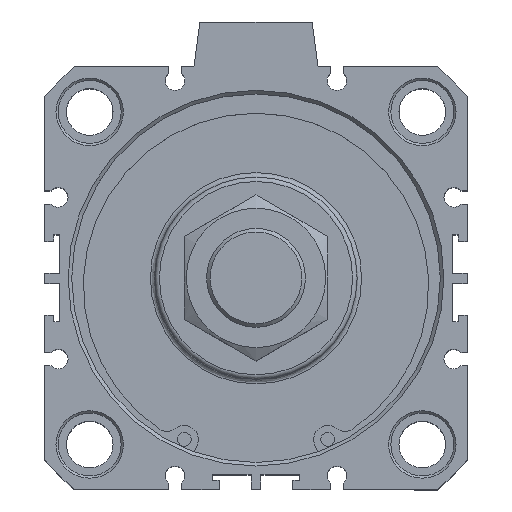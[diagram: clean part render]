
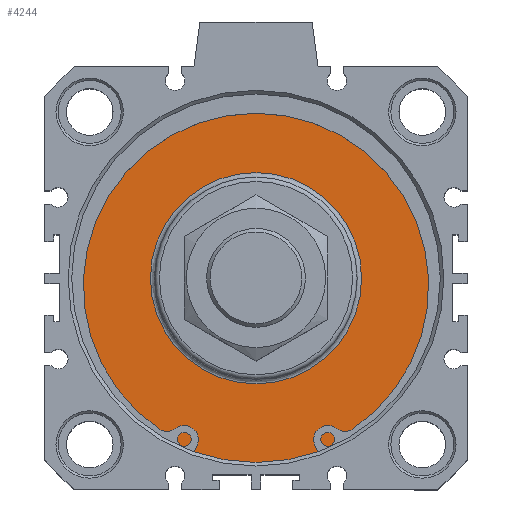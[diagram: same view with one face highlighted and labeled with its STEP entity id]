
A CAD part, top view. The second image highlights one B-rep face of the part: STEP entity #4244.
In plain terms, the highlighted planar face has unit normal (0, 0, 1).
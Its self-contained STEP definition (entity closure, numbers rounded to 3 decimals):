
#4193=CARTESIAN_POINT('',(2.632,21.227,65.6));
#4194=VERTEX_POINT('',#4193);
#4195=CARTESIAN_POINT('',(2.632,-2.273,65.6));
#4196=DIRECTION('',(0.0,0.0,1.0));
#4197=DIRECTION('',(0.0,-1.0,0.0));
#4198=AXIS2_PLACEMENT_3D('',#4195,#4196,#4197);
#4199=CIRCLE('',#4198,23.5);
#4200=EDGE_CURVE('',#4194,#4194,#4199,.T.);
#4225=CARTESIAN_POINT('',(2.632,29.477,65.6));
#4226=DIRECTION('',(0.0,0.0,1.0));
#4227=DIRECTION('',(1.0,0.0,0.0));
#4228=AXIS2_PLACEMENT_3D('',#4225,#4226,#4227);
#4229=PLANE('',#4228);
#4230=CARTESIAN_POINT('',(2.632,38.727,65.6));
#4231=VERTEX_POINT('',#4230);
#4232=CARTESIAN_POINT('',(2.632,-2.273,65.6));
#4233=DIRECTION('',(0.0,0.0,-1.0));
#4234=DIRECTION('',(0.0,1.0,0.0));
#4235=AXIS2_PLACEMENT_3D('',#4232,#4233,#4234);
#4236=CIRCLE('',#4235,41.);
#4237=EDGE_CURVE('',#4231,#4231,#4236,.T.);
#4238=ORIENTED_EDGE('',*,*,#4237,.F.);
#4239=EDGE_LOOP('',(#4238));
#4240=FACE_OUTER_BOUND('',#4239,.T.);
#4241=ORIENTED_EDGE('',*,*,#4200,.F.);
#4242=EDGE_LOOP('',(#4241));
#4243=FACE_BOUND('',#4242,.T.);
#4244=ADVANCED_FACE('',(#4240,#4243),#4229,.T.);
